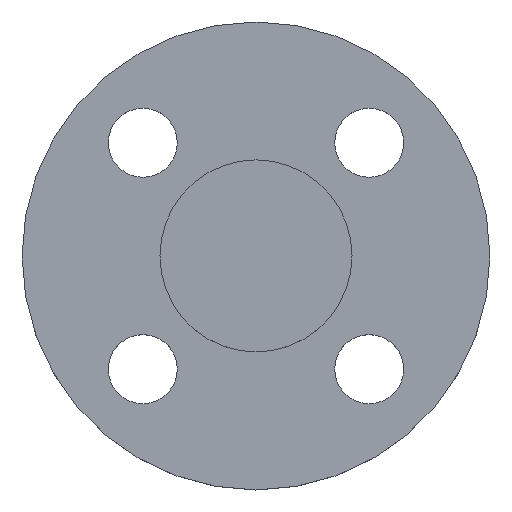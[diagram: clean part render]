
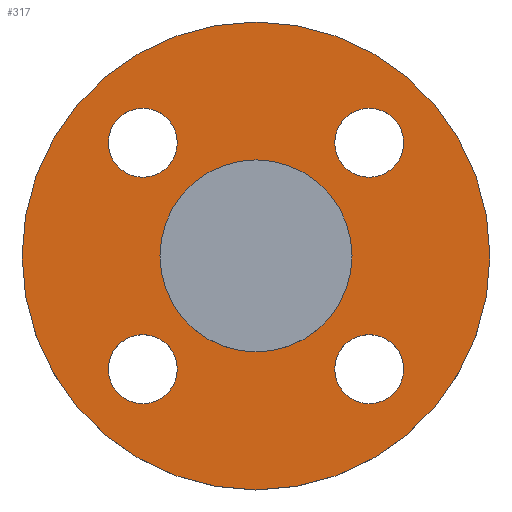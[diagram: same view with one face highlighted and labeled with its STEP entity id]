
A CAD part, top view. The second image highlights one B-rep face of the part: STEP entity #317.
In plain terms, the highlighted planar face has unit normal (0, 0, 1).
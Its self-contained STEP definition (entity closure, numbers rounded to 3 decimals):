
#6 = CIRCLE ( 'NONE', #8, 7. ) ;
#8 = AXIS2_PLACEMENT_3D ( 'NONE', #470, #472, #474 ) ;
#9 = CIRCLE ( 'NONE', #11, 7. ) ;
#10 = AXIS2_PLACEMENT_3D ( 'NONE', #101, #75, #84 ) ;
#11 = AXIS2_PLACEMENT_3D ( 'NONE', #475, #476, #477 ) ;
#16 = DIRECTION ( 'NONE',  ( -1., 0., 0. ) ) ;
#17 = DIRECTION ( 'NONE',  ( 0., 0., -1. ) ) ;
#22 = CIRCLE ( 'NONE', #145, 7. ) ;
#26 = DIRECTION ( 'NONE',  ( 1., 0., 0. ) ) ;
#32 = CARTESIAN_POINT ( 'NONE',  ( -22.981, 22.981, -4.5 ) ) ;
#34 = CIRCLE ( 'NONE', #35, 7. ) ;
#35 = AXIS2_PLACEMENT_3D ( 'NONE', #525, #527, #528 ) ;
#44 = CIRCLE ( 'NONE', #46, 47.5 ) ;
#46 = AXIS2_PLACEMENT_3D ( 'NONE', #536, #537, #538 ) ;
#57 = EDGE_CURVE ( 'NONE', #427, #293, #6, .T. ) ;
#65 = CIRCLE ( 'NONE', #141, 47.5 ) ;
#69 = DIRECTION ( 'NONE',  ( 0., 0., -1. ) ) ;
#75 = DIRECTION ( 'NONE',  ( 0., 0., -1. ) ) ;
#84 = DIRECTION ( 'NONE',  ( 1., 0., 0. ) ) ;
#87 = DIRECTION ( 'NONE',  ( 0., 0., -1. ) ) ;
#91 = CARTESIAN_POINT ( 'NONE',  ( -22.981, -22.981, -4.5 ) ) ;
#93 = DIRECTION ( 'NONE',  ( 1., 0., 0. ) ) ;
#101 = CARTESIAN_POINT ( 'NONE',  ( 22.981, 22.981, -4.5 ) ) ;
#102 = CIRCLE ( 'NONE', #103, 19.5 ) ;
#103 = AXIS2_PLACEMENT_3D ( 'NONE', #600, #601, #602 ) ;
#106 = AXIS2_PLACEMENT_3D ( 'NONE', #614, #615, #616 ) ;
#107 = CIRCLE ( 'NONE', #108, 7. ) ;
#108 = AXIS2_PLACEMENT_3D ( 'NONE', #618, #620, #621 ) ;
#109 = AXIS2_PLACEMENT_3D ( 'NONE', #91, #87, #93 ) ;
#119 = CIRCLE ( 'NONE', #121, 19.5 ) ;
#121 = AXIS2_PLACEMENT_3D ( 'NONE', #144, #17, #16 ) ;
#122 = CIRCLE ( 'NONE', #123, 7. ) ;
#123 = AXIS2_PLACEMENT_3D ( 'NONE', #32, #69, #26 ) ;
#130 = EDGE_CURVE ( 'NONE', #318, #434, #9, .T. ) ;
#141 = AXIS2_PLACEMENT_3D ( 'NONE', #196, #197, #199 ) ;
#144 = CARTESIAN_POINT ( 'NONE',  ( 0., 0., -4.5 ) ) ;
#145 = AXIS2_PLACEMENT_3D ( 'NONE', #494, #495, #496 ) ;
#153 = EDGE_CURVE ( 'NONE', #325, #268, #22, .T. ) ;
#181 = EDGE_CURVE ( 'NONE', #438, #435, #34, .T. ) ;
#186 = CARTESIAN_POINT ( 'NONE',  ( 47.5, 0., -4.5 ) ) ;
#187 = CARTESIAN_POINT ( 'NONE',  ( -15.981, 22.981, -4.5 ) ) ;
#190 = CARTESIAN_POINT ( 'NONE',  ( -47.5, 0., -4.5 ) ) ;
#191 = CARTESIAN_POINT ( 'NONE',  ( 15.981, -22.981, -4.5 ) ) ;
#192 = CARTESIAN_POINT ( 'NONE',  ( 15.981, 22.981, -4.5 ) ) ;
#195 = CARTESIAN_POINT ( 'NONE',  ( 29.981, 22.981, -4.5 ) ) ;
#196 = CARTESIAN_POINT ( 'NONE',  ( 0., 0., -4.5 ) ) ;
#197 = DIRECTION ( 'NONE',  ( 0., 0., -1. ) ) ;
#199 = DIRECTION ( 'NONE',  ( -1., 0., 0. ) ) ;
#218 = EDGE_CURVE ( 'NONE', #432, #425, #44, .T. ) ;
#237 = CIRCLE ( 'NONE', #10, 7. ) ;
#268 = VERTEX_POINT ( 'NONE', #574 ) ;
#273 = EDGE_LOOP ( 'NONE', ( #342, #344 ) ) ;
#288 = CIRCLE ( 'NONE', #109, 7. ) ;
#293 = VERTEX_POINT ( 'NONE', #598 ) ;
#297 = EDGE_CURVE ( 'NONE', #324, #360, #102, .T. ) ;
#304 = EDGE_LOOP ( 'NONE', ( #335, #337 ) ) ;
#317 = ADVANCED_FACE ( 'NONE', ( #607, #608, #609, #610, #611, #612 ), #613, .T. ) ;
#318 = VERTEX_POINT ( 'NONE', #617 ) ;
#320 = EDGE_CURVE ( 'NONE', #434, #318, #107, .T. ) ;
#324 = VERTEX_POINT ( 'NONE', #623 ) ;
#325 = VERTEX_POINT ( 'NONE', #624 ) ;
#335 = ORIENTED_EDGE ( 'NONE', *, *, #130, .T. ) ;
#337 = ORIENTED_EDGE ( 'NONE', *, *, #320, .T. ) ;
#338 = ORIENTED_EDGE ( 'NONE', *, *, #565, .T. ) ;
#339 = ORIENTED_EDGE ( 'NONE', *, *, #153, .T. ) ;
#340 = ORIENTED_EDGE ( 'NONE', *, *, #57, .T. ) ;
#341 = ORIENTED_EDGE ( 'NONE', *, *, #394, .T. ) ;
#342 = ORIENTED_EDGE ( 'NONE', *, *, #181, .T. ) ;
#344 = ORIENTED_EDGE ( 'NONE', *, *, #559, .T. ) ;
#345 = ORIENTED_EDGE ( 'NONE', *, *, #388, .T. ) ;
#347 = ORIENTED_EDGE ( 'NONE', *, *, #297, .T. ) ;
#348 = ORIENTED_EDGE ( 'NONE', *, *, #440, .F. ) ;
#349 = ORIENTED_EDGE ( 'NONE', *, *, #218, .F. ) ;
#355 = EDGE_LOOP ( 'NONE', ( #338, #339 ) ) ;
#360 = VERTEX_POINT ( 'NONE', #634 ) ;
#388 = EDGE_CURVE ( 'NONE', #360, #324, #119, .T. ) ;
#390 = EDGE_LOOP ( 'NONE', ( #340, #341 ) ) ;
#394 = EDGE_CURVE ( 'NONE', #293, #427, #122, .T. ) ;
#409 = EDGE_LOOP ( 'NONE', ( #345, #347 ) ) ;
#425 = VERTEX_POINT ( 'NONE', #186 ) ;
#426 = EDGE_LOOP ( 'NONE', ( #348, #349 ) ) ;
#427 = VERTEX_POINT ( 'NONE', #187 ) ;
#432 = VERTEX_POINT ( 'NONE', #190 ) ;
#434 = VERTEX_POINT ( 'NONE', #191 ) ;
#435 = VERTEX_POINT ( 'NONE', #192 ) ;
#438 = VERTEX_POINT ( 'NONE', #195 ) ;
#440 = EDGE_CURVE ( 'NONE', #425, #432, #65, .T. ) ;
#470 = CARTESIAN_POINT ( 'NONE',  ( -22.981, 22.981, -4.5 ) ) ;
#472 = DIRECTION ( 'NONE',  ( 0., 0., -1. ) ) ;
#474 = DIRECTION ( 'NONE',  ( 1., 0., 0. ) ) ;
#475 = CARTESIAN_POINT ( 'NONE',  ( 22.981, -22.981, -4.5 ) ) ;
#476 = DIRECTION ( 'NONE',  ( 0., 0., -1. ) ) ;
#477 = DIRECTION ( 'NONE',  ( 1., 0., 0. ) ) ;
#494 = CARTESIAN_POINT ( 'NONE',  ( -22.981, -22.981, -4.5 ) ) ;
#495 = DIRECTION ( 'NONE',  ( 0., 0., -1. ) ) ;
#496 = DIRECTION ( 'NONE',  ( 1., 0., 0. ) ) ;
#525 = CARTESIAN_POINT ( 'NONE',  ( 22.981, 22.981, -4.5 ) ) ;
#527 = DIRECTION ( 'NONE',  ( 0., 0., -1. ) ) ;
#528 = DIRECTION ( 'NONE',  ( 1., 0., 0. ) ) ;
#536 = CARTESIAN_POINT ( 'NONE',  ( 0., 0., -4.5 ) ) ;
#537 = DIRECTION ( 'NONE',  ( 0., 0., -1. ) ) ;
#538 = DIRECTION ( 'NONE',  ( -1., 0., 0. ) ) ;
#559 = EDGE_CURVE ( 'NONE', #435, #438, #237, .T. ) ;
#565 = EDGE_CURVE ( 'NONE', #268, #325, #288, .T. ) ;
#574 = CARTESIAN_POINT ( 'NONE',  ( -15.981, -22.981, -4.5 ) ) ;
#598 = CARTESIAN_POINT ( 'NONE',  ( -29.981, 22.981, -4.5 ) ) ;
#600 = CARTESIAN_POINT ( 'NONE',  ( 0., 0., -4.5 ) ) ;
#601 = DIRECTION ( 'NONE',  ( 0., 0., -1. ) ) ;
#602 = DIRECTION ( 'NONE',  ( -1., 0., 0. ) ) ;
#607 = FACE_BOUND ( 'NONE', #304, .T. ) ;
#608 = FACE_BOUND ( 'NONE', #355, .T. ) ;
#609 = FACE_BOUND ( 'NONE', #390, .T. ) ;
#610 = FACE_BOUND ( 'NONE', #273, .T. ) ;
#611 = FACE_BOUND ( 'NONE', #409, .T. ) ;
#612 = FACE_OUTER_BOUND ( 'NONE', #426, .T. ) ;
#613 = PLANE ( 'NONE',  #106 ) ;
#614 = CARTESIAN_POINT ( 'NONE',  ( 19.5, 0., -4.5 ) ) ;
#615 = DIRECTION ( 'NONE',  ( 0., 0., 1. ) ) ;
#616 = DIRECTION ( 'NONE',  ( 1., 0., 0. ) ) ;
#617 = CARTESIAN_POINT ( 'NONE',  ( 29.981, -22.981, -4.5 ) ) ;
#618 = CARTESIAN_POINT ( 'NONE',  ( 22.981, -22.981, -4.5 ) ) ;
#620 = DIRECTION ( 'NONE',  ( 0., 0., -1. ) ) ;
#621 = DIRECTION ( 'NONE',  ( 1., 0., 0. ) ) ;
#623 = CARTESIAN_POINT ( 'NONE',  ( 19.5, 0., -4.5 ) ) ;
#624 = CARTESIAN_POINT ( 'NONE',  ( -29.981, -22.981, -4.5 ) ) ;
#634 = CARTESIAN_POINT ( 'NONE',  ( -19.5, 0., -4.5 ) ) ;
